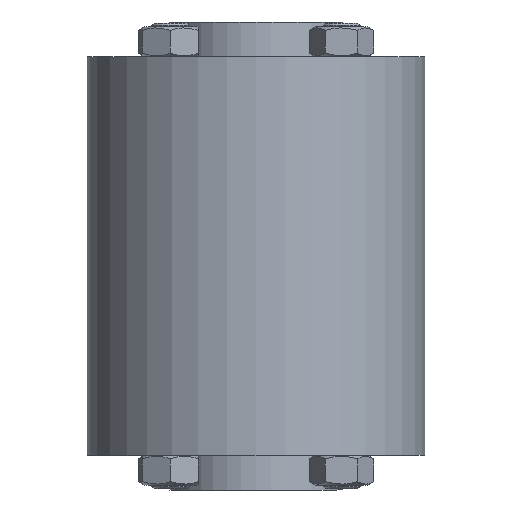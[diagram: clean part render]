
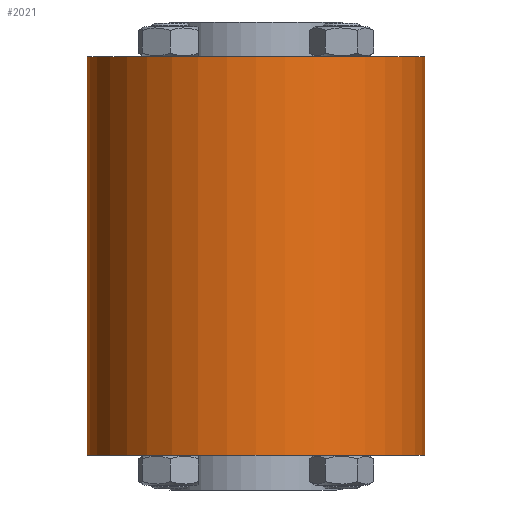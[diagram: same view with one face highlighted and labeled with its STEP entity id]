
A CAD part, front view. The second image highlights one B-rep face of the part: STEP entity #2021.
In plain terms, the highlighted cylindrical face has radius 72.5 mm (diameter 145 mm), a full revolution.
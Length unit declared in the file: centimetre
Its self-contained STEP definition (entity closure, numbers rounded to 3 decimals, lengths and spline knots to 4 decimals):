
#30=CYLINDRICAL_SURFACE('',#2217,7.25);
#354=FACE_BOUND('',#682,.T.);
#500=FACE_OUTER_BOUND('',#681,.T.);
#681=EDGE_LOOP('',(#1621));
#682=EDGE_LOOP('',(#1622));
#838=CIRCLE('',#2218,7.25);
#839=CIRCLE('',#2219,7.25);
#1010=VERTEX_POINT('',#3376);
#1011=VERTEX_POINT('',#3378);
#1236=EDGE_CURVE('',#1010,#1010,#838,.T.);
#1237=EDGE_CURVE('',#1011,#1011,#839,.T.);
#1621=ORIENTED_EDGE('',*,*,#1236,.F.);
#1622=ORIENTED_EDGE('',*,*,#1237,.F.);
#2021=ADVANCED_FACE('',(#500,#354),#30,.T.);
#2217=AXIS2_PLACEMENT_3D('',#3375,#2621,#2622);
#2218=AXIS2_PLACEMENT_3D('',#3377,#2623,#2624);
#2219=AXIS2_PLACEMENT_3D('',#3379,#2625,#2626);
#2621=DIRECTION('center_axis',(0.,0.,
-1.));
#2622=DIRECTION('ref_axis',(-1.,0.,0.));
#2623=DIRECTION('center_axis',(0.,0.,
1.));
#2624=DIRECTION('ref_axis',(0.,-1.,0.));
#2625=DIRECTION('center_axis',(0.,0.,
-1.));
#2626=DIRECTION('ref_axis',(0.,-1.,0.));
#3375=CARTESIAN_POINT('Origin',(0.,0.,
-8.2));
#3376=CARTESIAN_POINT('',(7.25,0.,8.55));
#3377=CARTESIAN_POINT('Origin',(0.,0.,
8.55));
#3378=CARTESIAN_POINT('',(7.25,0.,-8.55));
#3379=CARTESIAN_POINT('Origin',(0.,0.,
-8.55));
